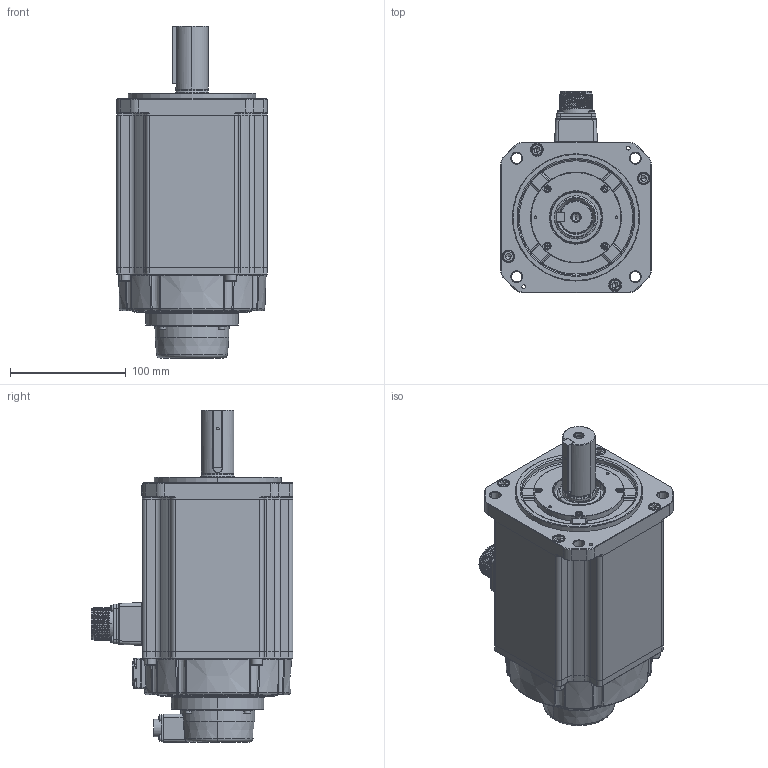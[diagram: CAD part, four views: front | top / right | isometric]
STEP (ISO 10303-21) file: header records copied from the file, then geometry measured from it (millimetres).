
FILE_DESCRIPTION (( 'STEP AP214' ), '1' );
FILE_NAME ('RSA1-S-130-3kw-B.STEP', '2024-08-12T02:18:44', ( '' ), ( '' ), 'SwSTEP 2.0', 'SolidWorks 2020', '' );
FILE_SCHEMA (( 'AUTOMOTIVE_DESIGN' ));
Length unit declared in the file: millimetre
Products named in the file (18): 坋趼羞攫芛蹟隊_M3x30; 130-蚐猾_TC30x45x8(NBR); ﾊｮﾗﾖｲﾛﾅﾌﾍｷﾗﾔｼｷﾂﾝｶ､_M3x8; 惕掅雄薯瑤脣; 130-惕掅綴傷裔; 130-S-3kw儂褲; 130-苤嫦講粣創裔啣; 内六角圆柱头螺钉_M3x10; 内六角圆柱头螺钉_M6x20; 130-S-ヶ傷裔; 130雄薯瑤脣價釱; 130-苤嫦講-粣噤28; 130秶雄ん盄揤裔; す瑩_B8x7x50; 130梓袧綴裔; RSA1-S-130-3kw-B; 4140000005_电机内部编码器线_7x26AWG(0.1m-CMV1-10芯螺纹插座_GACJ3045); 内六角圆柱头和平垫圈组合螺钉_M3x16
Assembly tree (40 placements, depth 2):
  RSA1-S-130-3kw-B
    130-S-3kw儂褲
    130雄薯瑤脣價釱
    130-S-ヶ傷裔
    130-苤嫦講-粣噤28
    惕掅雄薯瑤脣
    130-苤嫦講粣創裔啣
    130-蚐猾_TC30x45x8(NBR)
    130-惕掅綴傷裔
    130梓袧綴裔
    4140000005_电机内部编码器线_7x26AWG(0.1m-CMV1-10芯螺纹插座_GACJ3045)
    内六角圆柱头螺钉_M6x20  x8
    内六角圆柱头和平垫圈组合螺钉_M3x16  x4
    内六角圆柱头螺钉_M3x10  x4
    坋趼羞攫芛蹟隊_M3x30  x8
    ﾊｮﾗﾖｲﾛﾅﾌﾍｷﾗﾔｼｷﾂﾝｶ､_M3x8  x4
    す瑩_B8x7x50
    130秶雄ん盄揤裔
Bounding box: 130 x 174.4 x 286.9 mm (x, y, z)
Volume: 2478724.8 mm3; surface area: 292056.1 mm2
Topology: 44 solids, 46 shells, 3479 faces, 8562 edges, 5338 vertices
Faces by surface type: plane 1639, cylinder 862, cone 382, torus 308, bspline 224, sphere 64
Entity records: 113509 total; most frequent: CARTESIAN_POINT 29006, DIRECTION 14272, ORIENTED_EDGE 14176, EDGE_CURVE 7088, AXIS2_PLACEMENT_3D 5146, VERTEX_POINT 4447, VECTOR 3980, LINE 3980
